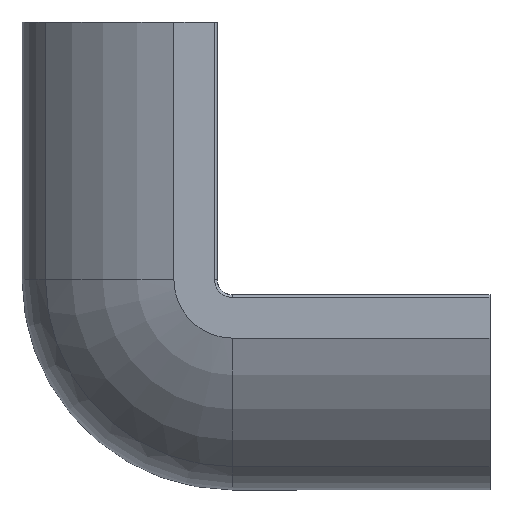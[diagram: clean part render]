
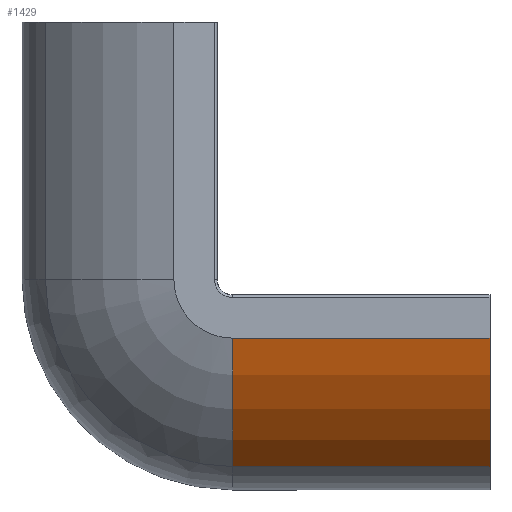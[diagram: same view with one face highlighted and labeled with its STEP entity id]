
A CAD part, left-side view. The second image highlights one B-rep face of the part: STEP entity #1429.
In plain terms, the highlighted cylindrical face has radius 20 mm (diameter 40 mm), a partial arc.
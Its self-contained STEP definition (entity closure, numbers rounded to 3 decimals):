
#136 = EDGE_CURVE ( 'NONE', #502, #424, #955, .T. ) ;
#164 = DIRECTION ( 'NONE',  ( 0., -1., 0. ) ) ;
#172 = LINE ( 'NONE', #1460, #682 ) ;
#202 = CIRCLE ( 'NONE', #1079, 20. ) ;
#258 = CARTESIAN_POINT ( 'NONE',  ( -17.81, -3., -38. ) ) ;
#284 = EDGE_CURVE ( 'NONE', #502, #393, #730, .T. ) ;
#287 = FACE_OUTER_BOUND ( 'NONE', #1532, .T. ) ;
#393 = VERTEX_POINT ( 'NONE', #1113 ) ;
#415 = VERTEX_POINT ( 'NONE', #1235 ) ;
#424 = VERTEX_POINT ( 'NONE', #788 ) ;
#449 = EDGE_CURVE ( 'NONE', #393, #415, #202, .T. ) ;
#502 = VERTEX_POINT ( 'NONE', #1386 ) ;
#517 = DIRECTION ( 'NONE',  ( 0., 1., 0. ) ) ;
#565 = ORIENTED_EDGE ( 'NONE', *, *, #284, .T. ) ;
#605 = AXIS2_PLACEMENT_3D ( 'NONE', #881, #1340, #1226 ) ;
#659 = CARTESIAN_POINT ( 'NONE',  ( -5.6, -25., -22.16 ) ) ;
#682 = VECTOR ( 'NONE', #164, 1000. ) ;
#695 = DIRECTION ( 'NONE',  ( 0., -1., 0. ) ) ;
#699 = ORIENTED_EDGE ( 'NONE', *, *, #819, .F. ) ;
#730 = LINE ( 'NONE', #258, #935 ) ;
#788 = CARTESIAN_POINT ( 'NONE',  ( -25., -3., -27.022 ) ) ;
#819 = EDGE_CURVE ( 'NONE', #424, #415, #172, .T. ) ;
#874 = CYLINDRICAL_SURFACE ( 'NONE', #605, 20. ) ;
#881 = CARTESIAN_POINT ( 'NONE',  ( -5.6, -3., -22.16 ) ) ;
#926 = DIRECTION ( 'NONE',  ( 1., 0., 0. ) ) ;
#935 = VECTOR ( 'NONE', #695, 1000. ) ;
#955 = CIRCLE ( 'NONE', #1201, 20. ) ;
#1060 = ORIENTED_EDGE ( 'NONE', *, *, #449, .T. ) ;
#1079 = AXIS2_PLACEMENT_3D ( 'NONE', #659, #517, #1451 ) ;
#1113 = CARTESIAN_POINT ( 'NONE',  ( -17.81, -25., -38. ) ) ;
#1146 = DIRECTION ( 'NONE',  ( 0., 1., 0. ) ) ;
#1201 = AXIS2_PLACEMENT_3D ( 'NONE', #1387, #1146, #926 ) ;
#1226 = DIRECTION ( 'NONE',  ( 0., 0., -1. ) ) ;
#1235 = CARTESIAN_POINT ( 'NONE',  ( -25., -25., -27.022 ) ) ;
#1340 = DIRECTION ( 'NONE',  ( 0., -1., 0. ) ) ;
#1386 = CARTESIAN_POINT ( 'NONE',  ( -17.81, -3., -38. ) ) ;
#1387 = CARTESIAN_POINT ( 'NONE',  ( -5.6, -3., -22.16 ) ) ;
#1429 = ADVANCED_FACE ( 'NONE', ( #287 ), #874, .T. ) ;
#1440 = ORIENTED_EDGE ( 'NONE', *, *, #136, .F. ) ;
#1451 = DIRECTION ( 'NONE',  ( 1., 0., 0. ) ) ;
#1460 = CARTESIAN_POINT ( 'NONE',  ( -25., -3., -27.022 ) ) ;
#1532 = EDGE_LOOP ( 'NONE', ( #1440, #565, #1060, #699 ) ) ;
